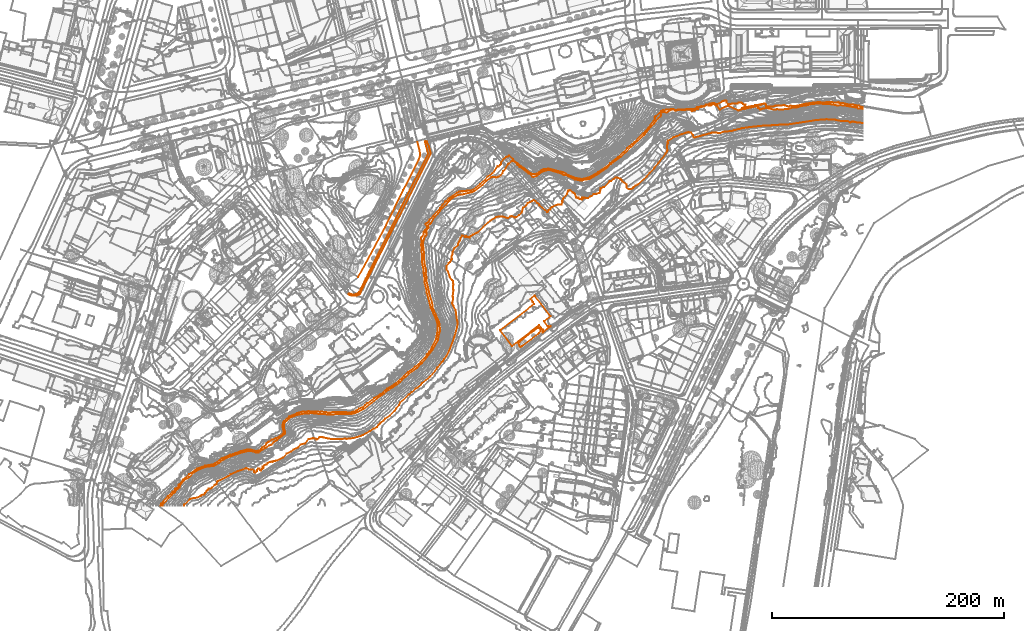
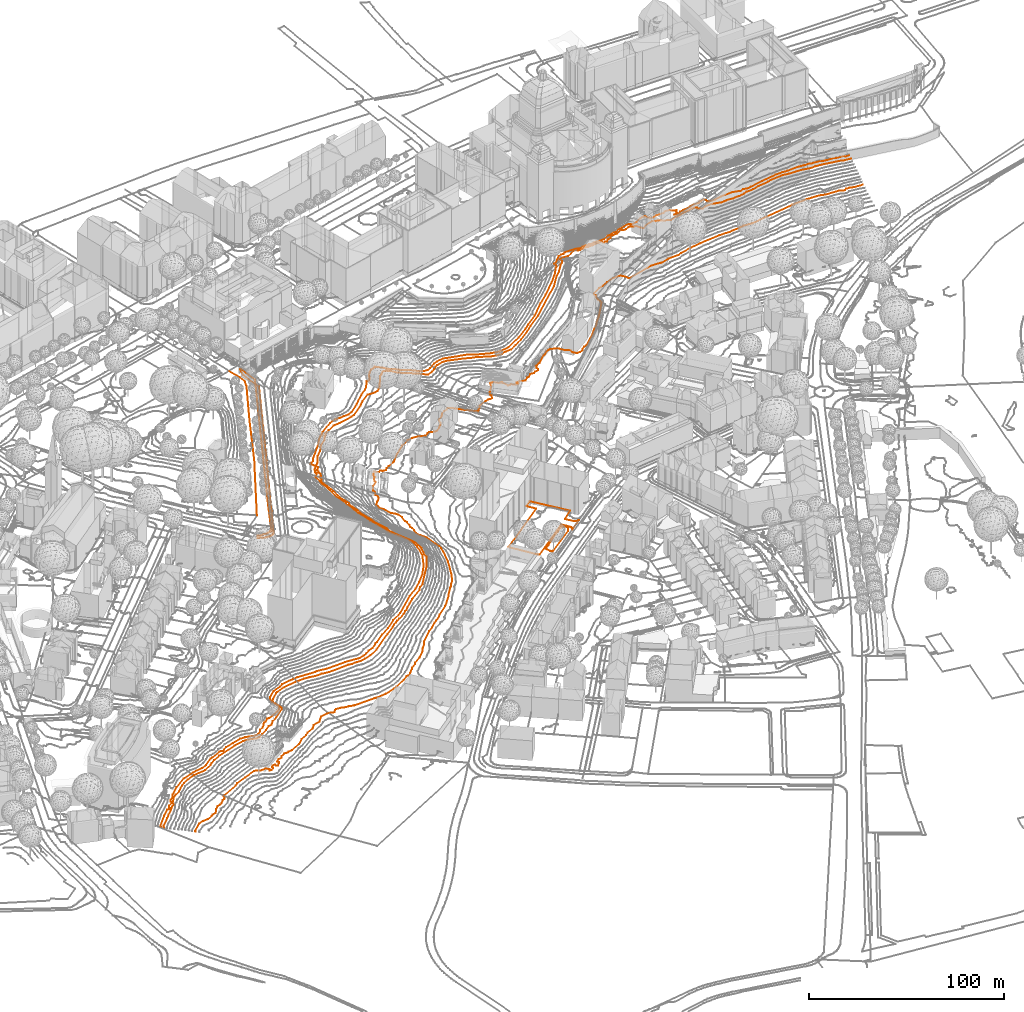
# Not in any storey, part 146 of 477: 4 geographic elements, 3 civil elements.
"""IFC4 model written with IfcOpenShell, lengths in metres."""

import ifcopenshell
import ifcopenshell.guid

model = None  # the IFC model being written
_history = None  # IfcOwnerHistory: only IFC2X3 demands one
_inside = {}  # id of a spatial element -> (the spatial element, [elements in it])
_under = {}  # id of a project, library or spatial element -> (it, [spatial elements below it])
_declared = {}  # id of a project -> (the project, [libraries it declares])
_typed = {}  # id of a type object -> (the type object, [elements of that type])
_made_of = {}  # id of a material, layer set ... -> (it, [elements and type objects made of it])


def new_model(schema):
    """Start an empty IFC model of exactly this schema.

    Asked for "IFC4X3", IfcOpenShell would pick the latest addendum, in which some entities
    have other attributes; the version numbers below select the first issue.
    IFC2X3 requires an IfcOwnerHistory on every rooted entity: one is made here for all.
    """
    global model, _history
    if schema == "IFC4X3":
        model = ifcopenshell.file(schema_version=(4, 3, 0, 0))
    else:
        model = ifcopenshell.file(schema=schema)
    _inside.clear()
    _under.clear()
    _declared.clear()
    _typed.clear()
    _made_of.clear()
    _history = None
    if model.schema == "IFC2X3":
        org = make("IfcOrganization", Name="unknown")
        user = make(
            "IfcPersonAndOrganization",
            ThePerson=make("IfcPerson", FamilyName="unknown"),
            TheOrganization=org,
        )
        app = make(
            "IfcApplication",
            ApplicationDeveloper=org,
            Version="unknown",
            ApplicationFullName="unknown",
            ApplicationIdentifier="unknown",
        )
        _history = make(
            "IfcOwnerHistory",
            OwningUser=user,
            OwningApplication=app,
            ChangeAction="ADDED",
            CreationDate=0,
        )
    return model


def make(cls, **values):
    """One entity of the class cls with the attributes given. An attribute that is None is left unset."""
    return model.create_entity(
        cls, **{name: value for name, value in values.items() if value is not None}
    )


def entity(cls, *values):
    """Any entity or typed value of the class cls, its attributes in the order of the schema. None: left unset."""
    e = model.create_entity(cls)
    for i, value in enumerate(values):
        if value is not None:
            e[i] = value
    return e


def rooted(cls, **values):
    """An entity with a GlobalId (a new one), such as an element, a storey or a relation."""
    return make(cls, GlobalId=ifcopenshell.guid.new(), OwnerHistory=_history, **values)


def si_unit(unit_type, name, prefix=None):
    """IfcSIUnit, for example si_unit("LENGTHUNIT", "METRE", prefix="MILLI")."""
    return make("IfcSIUnit", UnitType=unit_type, Prefix=prefix, Name=name)


def assignment(units):
    """IfcUnitAssignment: the units of a project."""
    return None if units is None else make("IfcUnitAssignment", Units=units)


def point(xyz):
    """IfcCartesianPoint."""
    return None if xyz is None else make("IfcCartesianPoint", Coordinates=xyz)


def direction(xyz):
    """IfcDirection."""
    return None if xyz is None else make("IfcDirection", DirectionRatios=xyz)


def frame(location, z_axis=None, x_axis=None):
    """IfcAxis2Placement3D, a coordinate frame: its origin and axes. An axis left out is left unset."""
    return make(
        "IfcAxis2Placement3D",
        Location=point(location),
        Axis=direction(z_axis),
        RefDirection=direction(x_axis),
    )


def origin_with_axes():
    """The frame at (0, 0, 0) with the z axis (0, 0, 1) and the x axis (1, 0, 0) written out."""
    return frame((0.0, 0.0, 0.0), z_axis=(0.0, 0.0, 1.0), x_axis=(1.0, 0.0, 0.0))


def place(relative_to, where):
    """IfcLocalPlacement: puts the frame where relative to a parent placement (None: the world)."""
    return make(
        "IfcLocalPlacement", PlacementRelTo=relative_to, RelativePlacement=where
    )


def context(
    kind, dimensions, precision=None, world=None, true_north=None, identifier=None
):
    """IfcGeometricRepresentationContext, for example the 3D "Model" context."""
    return make(
        "IfcGeometricRepresentationContext",
        ContextIdentifier=identifier,
        ContextType=kind,
        CoordinateSpaceDimension=dimensions,
        Precision=precision,
        WorldCoordinateSystem=world,
        TrueNorth=true_north,
    )


def subcontext(parent, identifier, kind, view, scale=None):
    """IfcGeometricRepresentationSubContext, for example "Body" below "Model"."""
    return make(
        "IfcGeometricRepresentationSubContext",
        ContextIdentifier=identifier,
        ContextType=kind,
        ParentContext=parent,
        TargetScale=scale,
        TargetView=view,
    )


def project(units=None, contexts=None):
    """IfcProject with its units and contexts."""
    return rooted(
        "IfcProject",
        Name="project",
        RepresentationContexts=contexts,
        UnitsInContext=assignment(units),
    )


def spatial(cls, under=None, at=None, **own):
    """A site, building, storey or space (cls), placed at a placement, below another one or the project."""
    s = rooted(cls, ObjectPlacement=at, **own)
    if under is not None:
        _under.setdefault(under.id(), (under, []))[1].append(s)
    return s


def shape(context_of_items, identifier, shape_type, items):
    """IfcShapeRepresentation: the items that make up one representation, for example the "Body"."""
    return make(
        "IfcShapeRepresentation",
        ContextOfItems=context_of_items,
        RepresentationIdentifier=identifier,
        RepresentationType=shape_type,
        Items=items,
    )


def made_of(thing, what):
    """Note that an element or type object is made of a material, layer set ...; save() writes the relation."""
    if what is not None:
        _made_of.setdefault(what.id(), (what, []))[1].append(thing)
    return thing


def element(
    cls,
    number,
    at=None,
    inside=None,
    cuts=None,
    type_object=None,
    material=None,
    context=None,
    identifier="Body",
    shape_type=None,
    held_by="IfcProductDefinitionShape",
    body=None,
    shapes=None,
    **own,
):
    """One element of the class cls, such as IfcWall. Its Tag is "e" and its number.

    at: its placement. inside: the storey or other place that contains it. cuts: it is an
    opening in that element (IfcRelVoidsElement). A single representation is given by context,
    identifier, shape_type and body (its items); several are given by shapes. held_by: the class
    of the entity that holds the representations. save() writes the other relations.
    """
    e = rooted(cls, Tag="e%d" % number, ObjectPlacement=at, **own)
    if body is not None:
        shapes = [shape(context, identifier, shape_type, body)]
    if shapes is not None:
        e.Representation = make(held_by, Representations=shapes)
    if inside is not None:
        _inside.setdefault(inside.id(), (inside, []))[1].append(e)
    if cuts is not None:
        rooted(
            "IfcRelVoidsElement", RelatingBuildingElement=cuts, RelatedOpeningElement=e
        )
    if type_object is not None:
        _typed.setdefault(type_object.id(), (type_object, []))[1].append(e)
    return made_of(e, material)


def aggregate(whole, parts):
    """IfcRelAggregates: a whole, such as a stair, and the parts it consists of."""
    return rooted("IfcRelAggregates", RelatingObject=whole, RelatedObjects=parts)


def save(model, path):
    """Write the relations noted so far, then the file.

    IfcRelAggregates (storeys below a building ...), IfcRelContainedInSpatialStructure (elements
    in a storey), IfcRelDefinesByType, IfcRelAssociatesMaterial and IfcRelDeclares: one each for
    every whole, place, type object, material and project.
    """
    for whole, parts in _under.values():
        aggregate(whole, parts)
    for where, things in _inside.values():
        rooted(
            "IfcRelContainedInSpatialStructure",
            RelatedElements=things,
            RelatingStructure=where,
        )
    for kind, things in _typed.values():
        rooted("IfcRelDefinesByType", RelatedObjects=things, RelatingType=kind)
    for what, things in _made_of.values():
        rooted("IfcRelAssociatesMaterial", RelatedObjects=things, RelatingMaterial=what)
    for by, libraries in _declared.values():
        rooted("IfcRelDeclares", RelatingContext=by, RelatedDefinitions=libraries)
    model.write(path)


model = new_model("IFC4")

# Units and contexts
model_context = context("Model", 3, precision=1e-05, world=origin_with_axes())
body_context = subcontext(model_context, "Body", "Model", "MODEL_VIEW")
ifc_project = project(units=[si_unit("AREAUNIT", "SQUARE_METRE"), si_unit("LENGTHUNIT", "METRE")], contexts=[model_context])

# Sites
site_1_placement = place(None, origin_with_axes())
site_1 = spatial("IfcSite", under=ifc_project, at=site_1_placement, Name="Topoexport Site")
site_2_placement = place(site_1_placement, origin_with_axes())
site_2 = spatial("IfcSite", under=site_1, at=site_2_placement, Name="TPX_ROADS")

# Civil element
civil_element_1_placement = place(site_2_placement, frame((252.3687320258, 195.3547372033, 538.186), z_axis=(0.0, 0.0, 1.0), x_axis=(1.0, 0.0, 0.0)))
element("IfcCivilElement", 1, at=civil_element_1_placement, inside=site_2, Name="Road 66", ObjectType="ROAD", context=body_context, shape_type="GeometricCurveSet", body=[
    entity("IfcGeometricCurveSet", [entity("IfcIndexedPolyCurve", entity("IfcCartesianPointList3D", [[51.1030000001, 117.3269964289, 1.375], [53.1590000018, 109.5449966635, 1.275], [53.745000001, 105.2859967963, 1.244], [52.2780000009, 101.1749969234, 1.155], [38.9140000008, 75.0359977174, 0.882], [23.2030000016, 42.8769986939, 0.571], [0.0, 0.0, 0.0]]))]),
])

# Site
site_3_placement = place(site_1_placement, origin_with_axes())
site_3 = spatial("IfcSite", under=site_1, at=site_3_placement, Name="TPX_ROADS_OUTLINES")

# Civil elements
civil_element_2_placement = place(site_3_placement, frame((244.2247320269, 180.7827160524, 535.7210730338), z_axis=(0.0, 0.0, 1.0), x_axis=(1.0, 0.0, 0.0)))
element("IfcCivilElement", 2, at=civil_element_2_placement, inside=site_3, Name="Roads Outline 68", ObjectType="ROAD", context=body_context, shape_type="GeometricCurveSet", body=[
    entity("IfcGeometricCurveSet", [entity("IfcIndexedPolyCurve", entity("IfcCartesianPointList3D", [[0.0, 0.0, 0.0], [0.4299999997, 0.7220000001, 1.0061032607], [1.0609999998, 0.3840000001, 0.9493057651], [1.7209999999, 0.1060000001, 1.0155911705], [2.4039999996, -0.108, 1.1948228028], [3.1039999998, -0.257, 1.230017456], [3.8149999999, -0.3399999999, 1.2166113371], [4.5299999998, -0.355, 1.2185154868], [5.2439999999, -0.3029999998, 1.1986940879], [5.9499999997, -0.1839999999, 1.1050534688], [6.6409999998, 0.0, 0.9576738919], [7.3129999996, 0.2490000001, 0.9249265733], [7.9569999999, 0.5600000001, 1.2168064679], [8.5699999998, 0.9300000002, 0.633516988], [8.7879999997, 1.0960000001, 0.312817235], [8.9849999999, 1.287, 0.1601853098], [9.156, 1.5010000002, 0.2142237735], [9.2959999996, 1.737, 0.2580758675], [10.4009999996, 4.048, 1.1655650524], [17.642, 19.182, 1.3030862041], [68.6979999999, 121.4140000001, 1.3862317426], [66.0919999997, 131.3120000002, 2.9035002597], [65.9649999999, 131.794, 2.7480724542], [66.449, 131.9210000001, 1.2071904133], [66.5759999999, 131.439, 1.2571021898], [67.605, 131.6910000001, -1.3891723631], [69.4449999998, 127.3530000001, -3.1595826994], [70.9919999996, 121.2250000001, -3.6091087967], [10.3689999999, 1.29, -0.8566308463], [10.102, 0.841, -0.8938719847], [9.7779999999, 0.432, -0.8188216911], [9.4009999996, 0.071, -0.7954715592], [8.9789999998, -0.237, -0.8281494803], [8.52, -0.4849999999, -0.7047566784], [7.8059999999, -0.7749999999, -0.5943769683], [7.071, -1.004, -0.6153123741], [6.318, -1.1699999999, -0.5635216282], [5.5549999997, -1.273, -0.39316825], [4.7849999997, -1.311, -0.2687760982], [4.0159999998, -1.284, -0.2092546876], [3.2509999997, -1.193, -0.1711743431], [2.4959999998, -1.037, -0.1060556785], [1.8449999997, -0.848, 0.0245304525], [1.21, -0.611, 0.0957175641], [0.5939999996, -0.328, 0.0530981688], [0.0, 0.0, 0.0]]))]),
])
civil_element_3_placement = place(site_3_placement, frame((374.9277320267, 149.7877160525, 503.0065275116), z_axis=(0.0, 0.0, 1.0), x_axis=(1.0, 0.0, 0.0)))
element("IfcCivilElement", 3, at=civil_element_3_placement, inside=site_3, Name="Roads Outline 108", ObjectType="ROAD", context=body_context, shape_type="GeometricCurveSet", body=[
    entity("IfcGeometricCurveSet", [entity("IfcIndexedPolyCurve", entity("IfcCartesianPointList3D", [[0.0, 0.0, 0.0], [29.5109999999, 22.6310000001, 0.0613416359], [28.324, 24.1709999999, 0.0937933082], [28.202, 24.3289999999, 0.0957038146], [27.4109999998, 25.355, 0.0761084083], [26.1499999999, 26.9909999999, 0.2251222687], [29.8119999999, 29.801, 0.3091823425], [30.0010000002, 29.5549999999, 0.2642736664], [43.4640000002, 12.051, 0.3206114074], [37.8650000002, 7.6809999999, -0.2680032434], [41.0690000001, 3.537, -0.2568301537], [41.3259999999, 3.317, -0.2567249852], [41.6170000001, 3.1439999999, -0.2509099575], [41.932, 3.0219999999, -0.2462269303], [42.264, 2.9549999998, -0.2411063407], [42.6510000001, 2.9469999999, -0.2454224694], [43.0320000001, 3.014, -0.247263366], [43.3930000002, 3.152, -0.2509293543], [43.7209999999, 3.3569999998, -0.2545834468], [36.4840000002, -2.2280000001, -0.4371853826], [36.7110000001, -1.986, -0.43935893], [36.8960000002, -1.7110000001, -0.439344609], [37.034, -1.409, -0.4402286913], [37.122, -1.0900000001, -0.4403077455], [37.1580000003, -0.76, -0.4287603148], [37.1370000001, -0.399, -0.4137720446], [37.0520000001, -0.048, -0.3924721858], [36.9070000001, 0.2830000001, -0.3611308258], [36.7060000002, 0.5829999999, -0.3323738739], [33.716, 4.463, -0.2780276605], [10.4369999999, -13.5870000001, -0.1724256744], [0.0, 0.0, 0.0]]))]),
])

# Site
site_4_placement = place(site_1_placement, origin_with_axes())
site_4 = spatial("IfcSite", under=site_1, at=site_4_placement, Name="TPX_CONTOUR_LINES")

# Geographic elements
geographic_element_1_placement = place(site_4_placement, frame((390.554567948, 139.1707160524, 503.0), z_axis=(0.0, 0.0, 1.0), x_axis=(1.0, 0.0, 0.0)))
element("IfcGeographicElement", 4, at=geographic_element_1_placement, inside=site_4, Name="Contour Line 503.0 m", PredefinedType="NOTDEFINED", context=body_context, shape_type="GeometricCurveSet", body=[
    entity("IfcGeometricCurveSet", [entity("IfcIndexedPolyCurve", entity("IfcCartesianPointList3D", [[3.3088236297, -3.0, 0.0], [2.1231640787, -3.8514931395, 0.0], [1.3503835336, -3.0, 0.0], [0.0, 0.0, 0.0], [1.1231640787, 0.5151680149, 0.0], [3.0706098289, 2.0, 0.0], [11.1231640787, 8.6590027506, 0.0], [13.1231640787, 9.8448673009, 0.0], [16.1231640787, 12.3198329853, 0.0], [17.1231640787, 12.8002671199, 0.0], [18.1231640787, 12.5733474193, 0.0], [18.8068063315, 12.0, 0.0], [19.3378647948, 11.0, 0.0], [19.3731302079, 10.0, 0.0], [18.1231640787, 8.0027926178, 0.0], [3.3088236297, -3.0, 0.0]]))]),
])
geographic_element_2_placement = place(site_4_placement, frame((102.4093465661, -1.3292839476, 512.0), z_axis=(0.0, 0.0, 1.0), x_axis=(1.0, 0.0, 0.0)))
element("IfcGeographicElement", 5, at=geographic_element_2_placement, inside=site_4, Name="Contour Line 512.0 m", PredefinedType="NOTDEFINED", context=body_context, shape_type="GeometricCurveSet", body=[
    entity("IfcGeometricCurveSet", [entity("IfcIndexedPolyCurve", entity("IfcCartesianPointList3D", [[585.7683854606, 329.7786036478, 0.0], [580.2683854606, 330.1535469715, 0.0], [578.2683854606, 330.7751536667, 0.0], [576.2683854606, 330.8776513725, 0.0], [575.2683854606, 330.3509793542, 0.0], [574.2683854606, 330.2734500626, 0.0], [572.2683854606, 331.2490537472, 0.0], [564.2683854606, 331.7246707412, 0.0], [562.2683854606, 332.4459585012, 0.0], [559.2683854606, 332.8620810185, 0.0], [557.2683854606, 332.6987299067, 0.0], [554.2683854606, 332.9898524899, 0.0], [545.2683854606, 332.2847755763, 0.0], [519.2683854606, 328.2524010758, 0.0], [514.2683854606, 328.5957719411, 0.0], [512.2683854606, 328.1210860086, 0.0], [507.2683854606, 327.7783252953, 0.0], [505.2683854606, 327.3870884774, 0.0], [499.2683854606, 327.4472424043, 0.0], [487.2683854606, 326.1703208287, 0.0], [481.2683854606, 325.1827507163, 0.0], [474.2683854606, 323.5484323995, 0.0], [472.2683854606, 322.7421440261, 0.0], [466.2683854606, 322.4151892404, 0.0], [461.2683854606, 320.8663497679, 0.0], [459.2683854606, 321.3033898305, 0.0], [455.2683854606, 321.3890618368, 0.0], [440.2683854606, 317.2912884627, 0.0], [439.6031743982, 317.5, 0.0], [438.9749735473, 319.5, 0.0], [437.2683854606, 321.475984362, 0.0], [435.2683854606, 321.7459653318, 0.0], [433.2683854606, 321.500432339, 0.0], [428.2683854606, 319.8854623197, 0.0], [425.2683854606, 318.3770562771, 0.0], [422.2683854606, 317.4403209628, 0.0], [417.4480305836, 314.5, 0.0], [416.9828760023, 313.5, 0.0], [417.5448334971, 312.5, 0.0], [416.837685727, 311.5, 0.0], [416.6635601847, 310.5, 0.0], [416.5894409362, 308.5, 0.0], [416.9499252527, 306.5, 0.0], [416.7496918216, 305.5, 0.0], [415.377033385, 303.5, 0.0], [409.3797131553, 295.5, 0.0], [405.6976285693, 291.5, 0.0], [405.2683854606, 290.4539075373, 0.0], [401.3382718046, 286.5, 0.0], [398.7943669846, 283.5, 0.0], [391.2683854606, 276.4927245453, 0.0], [389.2683854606, 275.7656423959, 0.0], [387.6349175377, 274.5, 0.0], [387.2683854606, 273.5422039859, 0.0], [385.2683854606, 272.8269717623, 0.0], [383.2683854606, 272.6691104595, 0.0], [381.6273750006, 274.5, 0.0], [381.8115839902, 276.5, 0.0], [378.2683854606, 279.0735470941, 0.0], [377.2683854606, 280.6401869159, 0.0], [376.2791381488, 281.5, 0.0], [373.2683854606, 282.6346712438, 0.0], [371.9789781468, 282.5, 0.0], [370.2683854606, 281.5732341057, 0.0], [368.2683854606, 279.7859160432, 0.0], [367.1479036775, 279.5, 0.0], [362.2683854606, 274.607963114, 0.0], [361.2683854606, 274.5500511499, 0.0], [360.2683854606, 273.5305681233, 0.0], [359.2683854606, 273.5205445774, 0.0], [359.3521213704, 272.5, 0.0], [358.82775599, 271.5, 0.0], [358.8963718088, 270.5, 0.0], [358.3685781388, 269.5, 0.0], [356.2683854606, 268.9825870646, 0.0], [355.2683854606, 268.2690192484, 0.0], [353.2683854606, 268.5060948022, 0.0], [351.2683854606, 266.5476380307, 0.0], [350.241329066, 266.5, 0.0], [348.2683854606, 264.8184055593, 0.0], [346.2683854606, 264.9944978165, 0.0], [345.2683854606, 265.5904682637, 0.0], [343.4287975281, 265.5, 0.0], [344.0655129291, 264.5, 0.0], [343.2683854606, 263.6823204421, 0.0], [341.2683854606, 264.3345679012, 0.0], [340.2683854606, 265.4549477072, 0.0], [339.2683854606, 265.1862429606, 0.0], [338.2683854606, 265.3691275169, 0.0], [337.2697241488, 268.5, 0.0], [336.2927986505, 269.5, 0.0], [335.2683854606, 269.6580524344, 0.0], [333.2683854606, 271.5193789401, 0.0], [332.2683854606, 271.7529069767, 0.0], [331.2683854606, 271.5593065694, 0.0], [330.1969568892, 268.5, 0.0], [326.9680564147, 264.5, 0.0], [326.2216408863, 262.5, 0.0], [326.3596533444, 261.5, 0.0], [325.4039137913, 259.5, 0.0], [324.2683854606, 259.3630412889, 0.0], [323.2683854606, 259.6169024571, 0.0], [321.2683854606, 259.1242132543, 0.0], [317.2683854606, 257.3190155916, 0.0], [316.2574153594, 256.5, 0.0], [315.8866120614, 255.5, 0.0], [314.5528885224, 254.5, 0.0], [313.9457977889, 253.5, 0.0], [313.2683854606, 252.9958664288, 0.0], [306.8166078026, 258.5, 0.0], [306.3137711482, 259.5, 0.0], [304.9001861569, 260.5, 0.0], [303.2683854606, 262.305980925, 0.0], [301.2683854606, 263.4401435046, 0.0], [300.2683854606, 262.4951333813, 0.0], [298.2683854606, 261.7629139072, 0.0], [296.3208540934, 260.5, 0.0], [295.0945577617, 258.5, 0.0], [292.2683854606, 256.611111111, 0.0], [291.4656643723, 253.5, 0.0], [290.8825333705, 252.5, 0.0], [288.969554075, 250.5, 0.0], [286.2683854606, 248.4625606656, 0.0], [285.2683854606, 248.3257650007, 0.0], [282.2683854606, 249.3055771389, 0.0], [281.2683854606, 248.9868563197, 0.0], [279.2683854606, 247.5817391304, 0.0], [274.2683854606, 249.1682096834, 0.0], [272.2683854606, 249.2162324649, 0.0], [269.2683854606, 248.6056447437, 0.0], [264.2683854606, 245.8079100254, 0.0], [258.1225467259, 240.5, 0.0], [253.2683854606, 235.3729911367, 0.0], [249.0783526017, 233.5, 0.0], [247.2683854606, 232.3847227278, 0.0], [246.2683854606, 231.1191741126, 0.0], [244.2683854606, 231.3849911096, 0.0], [243.2683854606, 232.2481243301, 0.0], [242.2683854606, 231.5189477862, 0.0], [240.2683854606, 232.7646075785, 0.0], [239.6561614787, 232.5, 0.0], [238.5239422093, 230.5, 0.0], [237.8459033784, 228.5, 0.0], [237.084248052, 227.5, 0.0], [236.349391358, 225.5, 0.0], [236.2683854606, 224.4243017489, 0.0], [233.2683854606, 221.9328180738, 0.0], [231.4364061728, 218.5, 0.0], [231.4987360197, 216.5, 0.0], [230.608274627, 214.5, 0.0], [230.9234732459, 212.5, 0.0], [230.4379925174, 211.5, 0.0], [229.2683854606, 209.63765324, 0.0], [228.2683854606, 208.9444920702, 0.0], [226.2529078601, 206.5, 0.0], [226.6074235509, 204.5, 0.0], [226.3103426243, 203.5, 0.0], [227.7159366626, 201.5, 0.0], [229.2926459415, 196.5, 0.0], [231.2683854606, 194.4757561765, 0.0], [231.7993900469, 193.5, 0.0], [232.2471474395, 190.5, 0.0], [231.9024459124, 186.5, 0.0], [232.3096942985, 185.5, 0.0], [232.0487439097, 182.5, 0.0], [231.5644748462, 180.5, 0.0], [231.8817407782, 179.5, 0.0], [231.9491598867, 177.5, 0.0], [231.2608858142, 174.5, 0.0], [232.2683854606, 171.8723745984, 0.0], [234.2205850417, 168.5, 0.0], [235.0828642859, 161.5, 0.0], [235.742153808, 158.5, 0.0], [235.7898565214, 156.5, 0.0], [235.3733341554, 153.5, 0.0], [232.971537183, 144.5, 0.0], [228.7220655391, 133.5, 0.0], [226.1709889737, 128.5, 0.0], [224.2683854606, 126.1865129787, 0.0], [223.2683854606, 124.4770415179, 0.0], [222.1919516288, 123.5, 0.0], [218.2683854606, 118.6088011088, 0.0], [217.7184911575, 117.5, 0.0], [211.6771431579, 110.5, 0.0], [205.4456006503, 105.5, 0.0], [204.2683854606, 104.178724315, 0.0], [201.2683854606, 101.5960213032, 0.0], [199.5530552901, 100.5, 0.0], [196.3219786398, 97.5, 0.0], [193.5473723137, 95.5, 0.0], [186.4271036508, 88.5, 0.0], [185.2683854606, 86.3599231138, 0.0], [182.7496736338, 83.5, 0.0], [181.5195031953, 81.5, 0.0], [177.5002587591, 77.5, 0.0], [173.2683854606, 74.6521202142, 0.0], [172.2683854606, 73.318142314, 0.0], [169.6257602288, 71.5, 0.0], [169.0603463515, 70.5, 0.0], [167.762767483, 69.5, 0.0], [166.2683854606, 67.6765080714, 0.0], [164.2683854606, 66.4175576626, 0.0], [163.2683854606, 66.1803956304, 0.0], [160.2683854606, 64.1374315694, 0.0], [154.2683854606, 60.7863183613, 0.0], [152.2683854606, 59.8626054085, 0.0], [146.2683854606, 58.0249616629, 0.0], [140.2683854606, 57.2850749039, 0.0], [139.2683854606, 57.4423792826, 0.0], [127.2683854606, 56.9770744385, 0.0], [124.2683854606, 57.7803875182, 0.0], [122.2683854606, 57.8610259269, 0.0], [120.2683854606, 58.6591922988, 0.0], [117.2683854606, 58.9008551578, 0.0], [116.2683854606, 58.3732704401, 0.0], [115.2683854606, 57.0537752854, 0.0], [114.2683854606, 56.7499629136, 0.0], [113.2683854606, 57.5089216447, 0.0], [111.2683854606, 57.8514180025, 0.0], [107.2683854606, 57.0180940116, 0.0], [104.2683854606, 53.4350115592, 0.0], [100.2683854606, 52.3423930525, 0.0], [98.2683854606, 49.8486480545, 0.0], [94.2683854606, 48.0164917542, 0.0], [92.2683854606, 46.3942809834, 0.0], [88.5646251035, 44.5, 0.0], [85.2683854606, 41.3903832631, 0.0], [79.2683854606, 38.3986945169, 0.0], [77.2683854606, 38.0828411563, 0.0], [76.2683854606, 37.462181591, 0.0], [75.2683854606, 37.7760290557, 0.0], [74.2683854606, 37.5202944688, 0.0], [72.1498669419, 36.5, 0.0], [71.2683854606, 35.3400000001, 0.0], [69.2683854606, 34.8106672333, 0.0], [67.5628936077, 33.5, 0.0], [68.4044598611, 32.5, 0.0], [67.8599222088, 31.5, 0.0], [67.2683854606, 31.3044182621, 0.0], [66.2683854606, 30.1614420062, 0.0], [65.4654114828, 30.5, 0.0], [65.2683854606, 31.5722433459, 0.0], [63.9841168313, 31.5, 0.0], [63.1192385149, 30.5, 0.0], [62.9803360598, 29.5, 0.0], [61.2683854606, 28.0828382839, 0.0], [60.2356270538, 28.5, 0.0], [60.8082665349, 29.5, 0.0], [59.2683854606, 30.8883874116, 0.0], [56.2683854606, 30.8091915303, 0.0], [54.2683854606, 31.8810578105, 0.0], [53.2683854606, 31.9567638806, 0.0], [46.2683854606, 29.374963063, 0.0], [40.2683854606, 26.7839423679, 0.0], [38.2683854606, 25.3318349, 0.0], [29.2683854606, 20.9696796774, 0.0], [28.6287626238, 20.5, 0.0], [27.9515104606, 18.5, 0.0], [27.2683854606, 17.7079710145, 0.0], [26.2683854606, 17.4385847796, 0.0], [24.2683854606, 15.378385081, 0.0], [23.0312562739, 14.5, 0.0], [21.2683854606, 14.3197560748, 0.0], [20.2683854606, 13.0102074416, 0.0], [19.2683854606, 12.2589382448, 0.0], [18.2683854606, 10.535929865, 0.0], [17.3052002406, 9.5, 0.0], [15.2683854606, 8.8491715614, 0.0], [14.2683854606, 8.0010771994, 0.0], [11.2683854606, 6.5132683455, 0.0], [8.2683854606, 6.4156834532, 0.0], [5.2683854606, 5.4907978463, 0.0], [0.0, 0.5, 0.0], [0.0, 0.0, 0.0]]))]),
])
geographic_element_3_placement = place(site_4_placement, frame((83.791356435, -1.3292839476, 521.0), z_axis=(0.0, 0.0, 1.0), x_axis=(1.0, 0.0, 0.0)))
element("IfcGeographicElement", 6, at=geographic_element_3_placement, inside=site_4, Name="Contour Line 521.0 m", PredefinedType="NOTDEFINED", context=body_context, shape_type="GeometricCurveSet", body=[
    entity("IfcGeometricCurveSet", [entity("IfcIndexedPolyCurve", entity("IfcCartesianPointList3D", [[604.3863755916, 341.8987044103, 0.0], [599.8863755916, 342.4084302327, 0.0], [598.8863755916, 342.87574834, 0.0], [587.8863755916, 344.799931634, 0.0], [584.8863755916, 345.0718676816, 0.0], [581.8863755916, 344.8837182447, 0.0], [576.8863755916, 345.8593252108, 0.0], [569.8863755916, 346.1228003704, 0.0], [565.8863755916, 346.6195481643, 0.0], [558.8863755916, 345.8922492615, 0.0], [556.8863755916, 345.1698301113, 0.0], [550.8863755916, 344.3693912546, 0.0], [546.8863755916, 343.2551875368, 0.0], [542.8863755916, 342.9363314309, 0.0], [540.8863755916, 342.1447331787, 0.0], [537.8863755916, 341.5804899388, 0.0], [536.8863755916, 341.7028112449, 0.0], [533.8863755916, 341.3257257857, 0.0], [529.8863755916, 341.6553902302, 0.0], [528.8863755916, 341.2635991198, 0.0], [526.8863755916, 341.2891517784, 0.0], [521.8863755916, 342.5064244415, 0.0], [517.8863755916, 342.3385979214, 0.0], [515.8863755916, 341.3889416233, 0.0], [515.2852624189, 341.5, 0.0], [514.8863755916, 341.9908675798, 0.0], [513.7953899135, 342.5, 0.0], [513.9711950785, 343.5, 0.0], [512.8863755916, 344.0858758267, 0.0], [510.8863755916, 343.9649802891, 0.0], [508.8863755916, 343.3372289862, 0.0], [505.8863755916, 342.9930379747, 0.0], [502.8863755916, 341.9925241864, 0.0], [500.8863755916, 341.8326068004, 0.0], [497.8863755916, 341.0344222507, 0.0], [496.8863755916, 340.3891862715, 0.0], [487.8863755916, 344.5327061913, 0.0], [482.8863755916, 342.7626782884, 0.0], [480.8863755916, 341.2422150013, 0.0], [479.8863755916, 342.3879524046, 0.0], [478.7408025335, 344.5, 0.0], [477.8863755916, 344.9392627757, 0.0], [476.8863755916, 345.0330556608, 0.0], [475.8863755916, 346.0452551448, 0.0], [474.8863755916, 345.9737963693, 0.0], [472.8863755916, 344.9998677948, 0.0], [470.8863755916, 344.7797058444, 0.0], [469.7864639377, 345.5, 0.0], [466.8863755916, 343.8303726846, 0.0], [462.5660133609, 343.5, 0.0], [461.8863755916, 341.9782920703, 0.0], [459.8863755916, 341.6795268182, 0.0], [458.8863755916, 340.2770314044, 0.0], [457.8863755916, 340.6517214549, 0.0], [456.8863755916, 340.2544540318, 0.0], [456.5286060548, 340.5, 0.0], [456.3406690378, 341.5, 0.0], [455.8863755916, 341.5685196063, 0.0], [451.8863755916, 341.3246370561, 0.0], [450.8863755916, 340.947225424, 0.0], [448.8863755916, 341.1097930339, 0.0], [447.8863755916, 340.8168091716, 0.0], [446.8863755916, 341.2675598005, 0.0], [442.8863755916, 340.5925324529, 0.0], [441.8863755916, 340.6221711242, 0.0], [440.8863755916, 341.5208488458, 0.0], [439.3792548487, 341.5, 0.0], [434.8863755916, 338.8202105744, 0.0], [431.8863755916, 339.2382520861, 0.0], [429.6788317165, 338.5, 0.0], [429.8595155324, 336.5, 0.0], [429.4439994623, 335.5, 0.0], [427.8863755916, 334.1942290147, 0.0], [423.8863755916, 329.1825994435, 0.0], [420.8863755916, 326.3751370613, 0.0], [415.3415556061, 319.5, 0.0], [394.9737800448, 300.5, 0.0], [386.9280117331, 294.5, 0.0], [382.8863755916, 290.8732756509, 0.0], [376.7291147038, 286.5, 0.0], [371.8863755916, 283.4854147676, 0.0], [367.8863755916, 281.3798472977, 0.0], [364.8863755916, 280.9458428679, 0.0], [363.8863755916, 281.089720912, 0.0], [361.8863755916, 280.0909668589, 0.0], [358.8863755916, 280.3238388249, 0.0], [355.8863755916, 281.0995667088, 0.0], [347.8863755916, 284.6564074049, 0.0], [345.8863755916, 285.0040423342, 0.0], [342.8863755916, 286.4240379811, 0.0], [333.8863755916, 289.101015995, 0.0], [331.8863755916, 289.1582836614, 0.0], [327.8863755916, 288.0219921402, 0.0], [326.8319679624, 287.5, 0.0], [324.8863755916, 285.6300912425, 0.0], [322.8863755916, 284.3430609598, 0.0], [319.8863755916, 283.2183973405, 0.0], [318.8863755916, 283.6954887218, 0.0], [315.8863755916, 286.3299076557, 0.0], [307.8863755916, 291.8349466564, 0.0], [306.1546144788, 293.5, 0.0], [305.7045290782, 294.5, 0.0], [302.8863755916, 296.7450235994, 0.0], [301.8863755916, 297.1964152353, 0.0], [300.8863755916, 296.9886922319, 0.0], [298.8863755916, 294.9352766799, 0.0], [297.8863755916, 294.2972579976, 0.0], [295.7970850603, 290.5, 0.0], [293.8863755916, 288.0982478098, 0.0], [293.1220708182, 286.5, 0.0], [291.3957332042, 284.5, 0.0], [290.0524679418, 283.5, 0.0], [287.8863755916, 282.8791958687, 0.0], [283.8863755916, 283.0540983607, 0.0], [278.8863755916, 279.532561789, 0.0], [275.8863755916, 276.3722633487, 0.0], [268.8863755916, 270.9127260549, 0.0], [266.8863755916, 270.1161239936, 0.0], [258.8863755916, 268.2223692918, 0.0], [254.8863755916, 267.7989292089, 0.0], [250.695432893, 265.5, 0.0], [247.8863755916, 263.5297297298, 0.0], [247.2285846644, 262.5, 0.0], [246.1083222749, 261.5, 0.0], [244.8193839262, 259.5, 0.0], [240.4705236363, 255.5, 0.0], [237.4982193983, 251.5, 0.0], [234.4798427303, 248.5, 0.0], [231.610096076, 243.5, 0.0], [230.8863755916, 242.7098926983, 0.0], [228.8303915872, 241.5, 0.0], [229.5957967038, 239.5, 0.0], [227.8420036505, 237.5, 0.0], [227.8863755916, 236.2383647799, 0.0], [226.8863755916, 235.7663043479, 0.0], [227.6013899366, 234.5, 0.0], [227.5567533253, 233.5, 0.0], [226.8863755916, 232.0772357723, 0.0], [225.8863755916, 231.4722921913, 0.0], [225.6793390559, 229.5, 0.0], [224.9956873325, 228.5, 0.0], [224.7261205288, 227.5, 0.0], [224.5506880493, 225.5, 0.0], [225.1147865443, 222.5, 0.0], [225.5708747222, 217.5, 0.0], [225.8988629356, 209.5, 0.0], [227.2228811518, 203.5, 0.0], [227.1083720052, 200.5, 0.0], [227.7493877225, 196.5, 0.0], [227.8487824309, 193.5, 0.0], [229.9312222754, 184.5, 0.0], [229.9138551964, 183.5, 0.0], [232.7066443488, 174.5, 0.0], [232.7599097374, 171.5, 0.0], [238.4113636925, 158.5, 0.0], [238.9011349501, 156.5, 0.0], [239.4631737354, 151.5, 0.0], [239.4066303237, 150.5, 0.0], [238.1785400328, 146.5, 0.0], [237.6311051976, 142.5, 0.0], [232.9923784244, 134.5, 0.0], [223.7236762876, 122.5, 0.0], [221.1379507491, 120.5, 0.0], [219.5999798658, 118.5, 0.0], [212.4273943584, 113.5, 0.0], [209.3122473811, 110.5, 0.0], [206.7777386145, 108.5, 0.0], [205.067651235, 106.5, 0.0], [203.8863755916, 105.8727701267, 0.0], [201.8863755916, 103.9784876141, 0.0], [197.8863755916, 101.4125049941, 0.0], [195.8863755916, 100.4982316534, 0.0], [194.8863755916, 99.5092929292, 0.0], [192.8863755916, 98.3355545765, 0.0], [191.0063052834, 96.5, 0.0], [185.8863755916, 92.8303038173, 0.0], [173.8863755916, 83.3126562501, 0.0], [168.8863755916, 80.687684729, 0.0], [164.8863755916, 79.1813009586, 0.0], [161.8863755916, 78.5833579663, 0.0], [158.8863755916, 78.9213296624, 0.0], [156.8863755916, 78.602060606, 0.0], [154.8863755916, 78.8458904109, 0.0], [142.8863755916, 78.2366922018, 0.0], [138.8863755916, 78.7122124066, 0.0], [134.8863755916, 78.6884531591, 0.0], [131.8863755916, 79.2414070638, 0.0], [128.8863755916, 79.4088554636, 0.0], [123.8863755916, 79.2872216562, 0.0], [115.8863755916, 78.0295998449, 0.0], [110.8863755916, 75.9730396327, 0.0], [110.0408298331, 75.5, 0.0], [105.8863755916, 71.7706288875, 0.0], [105.0247756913, 70.5, 0.0], [104.7229251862, 67.5, 0.0], [105.7636862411, 63.5, 0.0], [105.6760198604, 62.5, 0.0], [105.1440402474, 61.5, 0.0], [99.0315857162, 56.5, 0.0], [95.8863755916, 54.6133212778, 0.0], [93.8863755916, 52.2652329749, 0.0], [91.8863755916, 51.7428511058, 0.0], [88.9253225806, 49.5, 0.0], [85.4118705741, 47.5, 0.0], [82.8863755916, 45.5958343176, 0.0], [80.8863755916, 45.4526112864, 0.0], [75.8863755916, 46.8805472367, 0.0], [73.8863755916, 46.8262884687, 0.0], [67.8863755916, 45.4140938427, 0.0], [56.7106525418, 41.5, 0.0], [52.4794921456, 39.5, 0.0], [49.8863755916, 37.755170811, 0.0], [48.5856585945, 36.5, 0.0], [43.8863755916, 34.0239391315, 0.0], [36.8863755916, 33.0761060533, 0.0], [31.8863755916, 31.1196475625, 0.0], [28.8863755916, 29.5551261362, 0.0], [26.8863755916, 28.1370601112, 0.0], [22.8863755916, 24.2091403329, 0.0], [19.8863755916, 22.5053724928, 0.0], [17.8863755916, 20.9011958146, 0.0], [15.3224500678, 17.5, 0.0], [14.617059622, 15.5, 0.0], [12.8863755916, 14.1623841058, 0.0], [10.677470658, 11.5, 0.0], [7.8863755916, 9.007092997, 0.0], [5.725555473, 6.5, 0.0], [0.8863755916, 1.7936953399, 0.0], [0.0, 0.5, 0.0], [0.0, 0.0, 0.0]]))]),
])
geographic_element_4_placement = place(site_4_placement, frame((81.9797185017, -1.3292839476, 522.0), z_axis=(0.0, 0.0, 1.0), x_axis=(1.0, 0.0, 0.0)))
element("IfcGeographicElement", 7, at=geographic_element_4_placement, inside=site_4, Name="Contour Line 522.0 m", PredefinedType="NOTDEFINED", context=body_context, shape_type="GeometricCurveSet", body=[
    entity("IfcGeometricCurveSet", [entity("IfcIndexedPolyCurve", entity("IfcCartesianPointList3D", [[606.198013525, 343.637235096, 0.0], [603.698013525, 343.7864330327, 0.0], [602.698013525, 344.6129616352, 0.0], [600.698013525, 344.6392572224, 0.0], [599.698013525, 345.0120298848, 0.0], [598.698013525, 344.8008034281, 0.0], [597.6226225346, 345.5, 0.0], [593.698013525, 345.6589945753, 0.0], [591.698013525, 346.0818581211, 0.0], [590.698013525, 346.6211133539, 0.0], [585.698013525, 347.007639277, 0.0], [584.698013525, 347.5986667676, 0.0], [581.698013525, 347.3086317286, 0.0], [577.698013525, 348.0105438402, 0.0], [571.698013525, 347.398686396, 0.0], [568.698013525, 347.7309078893, 0.0], [564.698013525, 347.5518119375, 0.0], [555.698013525, 346.2610782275, 0.0], [548.3698783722, 344.5, 0.0], [545.698013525, 344.1939337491, 0.0], [543.698013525, 344.6515345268, 0.0], [541.698013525, 344.0219584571, 0.0], [537.698013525, 345.0840807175, 0.0], [530.698013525, 344.6569793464, 0.0], [526.698013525, 343.7771395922, 0.0], [522.698013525, 343.7687285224, 0.0], [522.3005536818, 344.5, 0.0], [522.2770525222, 345.5, 0.0], [521.698013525, 346.4596076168, 0.0], [520.698013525, 346.6939958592, 0.0], [519.698013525, 346.0109590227, 0.0], [518.698013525, 346.0076816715, 0.0], [517.698013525, 345.2650848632, 0.0], [516.698013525, 345.5421743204, 0.0], [512.698013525, 345.1022361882, 0.0], [511.698013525, 344.4403077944, 0.0], [507.698013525, 344.0227333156, 0.0], [507.3323821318, 343.5, 0.0], [505.698013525, 343.3049045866, 0.0], [504.698013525, 342.4042342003, 0.0], [501.698013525, 342.4753396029, 0.0], [501.698013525, 342.7032146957, 0.0], [503.8168659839, 343.5, 0.0], [503.7548997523, 344.5, 0.0], [504.7404163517, 345.5, 0.0], [502.698013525, 346.0073746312, 0.0], [501.698013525, 347.1635160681, 0.0], [500.6260783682, 347.5, 0.0], [498.698013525, 347.5236572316, 0.0], [497.698013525, 346.6240109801, 0.0], [493.698013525, 346.6427139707, 0.0], [490.698013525, 345.9413986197, 0.0], [489.698013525, 346.0256883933, 0.0], [488.5070910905, 347.5, 0.0], [488.2100489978, 348.5, 0.0], [487.698013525, 348.9297867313, 0.0], [486.698013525, 348.9575870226, 0.0], [484.7770508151, 348.5, 0.0], [481.698013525, 346.4669657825, 0.0], [478.698013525, 346.0124630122, 0.0], [477.698013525, 346.8881819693, 0.0], [476.698013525, 346.9557478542, 0.0], [473.8383135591, 346.5, 0.0], [472.698013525, 345.8622551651, 0.0], [470.511347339, 345.5, 0.0], [467.698013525, 344.0270382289, 0.0], [466.698013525, 344.3786721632, 0.0], [463.698013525, 343.3314338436, 0.0], [462.698013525, 343.4157155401, 0.0], [459.698013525, 341.6271342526, 0.0], [453.698013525, 341.5638527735, 0.0], [451.698013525, 341.1794283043, 0.0], [450.698013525, 341.5208096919, 0.0], [449.698013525, 341.0791462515, 0.0], [448.698013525, 341.5531863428, 0.0], [446.698013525, 341.4882209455, 0.0], [444.698013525, 340.7391100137, 0.0], [443.698013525, 340.870022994, 0.0], [442.698013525, 341.6032782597, 0.0], [436.0058431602, 341.5, 0.0], [434.9003831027, 340.5, 0.0], [433.698013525, 340.719621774, 0.0], [431.698013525, 339.9703262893, 0.0], [427.698013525, 335.7902147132, 0.0], [426.6029583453, 335.5, 0.0], [426.266314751, 334.5, 0.0], [426.6147885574, 333.5, 0.0], [426.1695957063, 332.5, 0.0], [425.1633427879, 331.5, 0.0], [422.698013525, 328.0214191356, 0.0], [416.698013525, 321.2668423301, 0.0], [408.8192450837, 313.5, 0.0], [402.698013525, 308.2600979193, 0.0], [394.698013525, 300.2717541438, 0.0], [387.698013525, 295.0854133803, 0.0], [384.698013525, 292.289659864, 0.0], [377.698013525, 287.406673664, 0.0], [369.0616907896, 282.5, 0.0], [363.698013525, 281.5231730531, 0.0], [362.698013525, 281.4595959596, 0.0], [357.698013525, 282.4601414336, 0.0], [351.698013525, 284.8294436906, 0.0], [347.698013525, 287.1184689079, 0.0], [334.698013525, 290.4321167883, 0.0], [330.698013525, 289.8174995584, 0.0], [328.698013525, 288.9623844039, 0.0], [324.698013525, 286.2246471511, 0.0], [322.698013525, 285.587884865, 0.0], [320.698013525, 285.6777609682, 0.0], [319.698013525, 286.0709351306, 0.0], [316.698013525, 288.2350185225, 0.0], [314.698013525, 290.070368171, 0.0], [310.6148497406, 292.5, 0.0], [307.698013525, 295.4066855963, 0.0], [305.6551105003, 296.5, 0.0], [304.122462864, 298.5, 0.0], [300.698013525, 301.5506864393, 0.0], [299.698013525, 300.8678783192, 0.0], [297.9779048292, 300.5, 0.0], [295.9158755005, 298.5, 0.0], [293.7144463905, 295.5, 0.0], [293.6728166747, 294.5, 0.0], [292.9100645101, 293.5, 0.0], [291.698013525, 292.3231009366, 0.0], [290.698013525, 292.4304495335, 0.0], [287.698013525, 287.972075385, 0.0], [286.3161795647, 286.5, 0.0], [282.3474336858, 283.5, 0.0], [275.698013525, 277.0174917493, 0.0], [270.2290850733, 272.5, 0.0], [267.698013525, 271.4686950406, 0.0], [264.698013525, 271.2940344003, 0.0], [262.698013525, 270.8507621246, 0.0], [261.698013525, 271.1296965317, 0.0], [260.698013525, 270.6410788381, 0.0], [259.698013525, 271.0029776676, 0.0], [257.692729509, 270.5, 0.0], [255.698013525, 269.5597563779, 0.0], [248.3571724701, 264.5, 0.0], [246.698013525, 262.3792604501, 0.0], [245.698013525, 261.9029959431, 0.0], [243.4391812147, 259.5, 0.0], [241.4058713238, 256.5, 0.0], [232.3590632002, 246.5, 0.0], [231.2830146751, 244.5, 0.0], [229.6651617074, 243.5, 0.0], [228.7529239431, 242.5, 0.0], [229.9216336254, 240.5, 0.0], [229.8715357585, 239.5, 0.0], [228.1465663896, 237.5, 0.0], [227.8833158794, 236.5, 0.0], [227.0958774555, 235.5, 0.0], [226.9927794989, 233.5, 0.0], [225.1464420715, 231.5, 0.0], [224.9559082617, 230.5, 0.0], [225.2548225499, 227.5, 0.0], [224.7818051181, 224.5, 0.0], [225.4212656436, 222.5, 0.0], [225.569868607, 210.5, 0.0], [226.9680770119, 203.5, 0.0], [226.9398976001, 201.5, 0.0], [227.7107410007, 196.5, 0.0], [227.8542014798, 192.5, 0.0], [229.5990505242, 185.5, 0.0], [229.7366440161, 183.5, 0.0], [232.2738138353, 174.5, 0.0], [233.0969921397, 170.5, 0.0], [237.4591561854, 161.5, 0.0], [238.8425162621, 157.5, 0.0], [239.1606524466, 151.5, 0.0], [238.7951444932, 148.5, 0.0], [237.629348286, 143.5, 0.0], [234.2980135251, 136.5, 0.0], [231.8230247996, 132.5, 0.0], [230.1900135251, 130.5, 0.0], [229.7665580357, 129.5, 0.0], [224.216217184, 123.5, 0.0], [219.775708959, 119.5, 0.0], [213.698013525, 115.0758996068, 0.0], [201.9807795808, 104.5, 0.0], [195.698013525, 100.6438243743, 0.0], [189.698013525, 95.806359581, 0.0], [184.4592214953, 92.5, 0.0], [178.698013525, 88.0729818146, 0.0], [177.698013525, 87.6624656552, 0.0], [176.635268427, 86.5, 0.0], [174.0240639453, 84.5, 0.0], [171.2580021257, 83.5, 0.0], [168.698013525, 81.6449412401, 0.0], [166.698013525, 80.7133404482, 0.0], [163.698013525, 80.0336498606, 0.0], [155.698013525, 80.5995100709, 0.0], [144.698013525, 80.1099754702, 0.0], [138.698013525, 80.8594159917, 0.0], [137.698013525, 80.6373283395, 0.0], [127.698013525, 81.1084610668, 0.0], [124.698013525, 80.6531277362, 0.0], [122.698013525, 80.6967255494, 0.0], [117.698013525, 79.6552135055, 0.0], [115.698013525, 78.2210708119, 0.0], [110.7834196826, 76.5, 0.0], [106.698013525, 72.8172256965, 0.0], [105.8100705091, 71.5, 0.0], [105.2777776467, 68.5, 0.0], [106.2918397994, 63.5, 0.0], [106.1582599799, 62.5, 0.0], [105.4893904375, 61.5, 0.0], [103.698013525, 60.0084347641, 0.0], [99.698013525, 57.9110393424, 0.0], [96.698013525, 56.764684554, 0.0], [95.698013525, 56.6631693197, 0.0], [93.698013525, 54.8455227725, 0.0], [92.6587220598, 54.5, 0.0], [91.5380664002, 53.5, 0.0], [91.1807565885, 52.5, 0.0], [89.698013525, 51.1276243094, 0.0], [87.698013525, 49.9546744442, 0.0], [86.6272846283, 48.5, 0.0], [84.698013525, 47.0222115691, 0.0], [83.698013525, 46.6396735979, 0.0], [82.698013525, 46.6322201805, 0.0], [77.698013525, 48.017405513, 0.0], [74.698013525, 48.0699635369, 0.0], [69.698013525, 46.8075674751, 0.0], [64.698013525, 45.1403031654, 0.0], [62.698013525, 44.0537533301, 0.0], [61.698013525, 43.117908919, 0.0], [60.698013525, 43.6516466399, 0.0], [59.9901454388, 43.5, 0.0], [53.698013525, 40.7399053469, 0.0], [52.698013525, 40.5297596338, 0.0], [47.698013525, 36.4558193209, 0.0], [44.698013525, 35.1941813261, 0.0], [38.698013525, 34.2241582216, 0.0], [31.698013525, 31.7690229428, 0.0], [24.698013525, 26.8978514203, 0.0], [19.698013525, 22.1419776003, 0.0], [18.6103171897, 20.5, 0.0], [16.4534627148, 18.5, 0.0], [15.8419728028, 17.5, 0.0], [15.9249330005, 16.5, 0.0], [15.698013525, 16.0315097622, 0.0], [13.2942344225, 14.5, 0.0], [12.698013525, 13.8233341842, 0.0], [12.2879793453, 12.5, 0.0], [11.698013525, 11.9035542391, 0.0], [10.698013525, 11.9524571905, 0.0], [6.698013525, 8.1942626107, 0.0], [0.5666426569, 1.5, 0.0], [0.0, 0.0, 0.0]]))]),
])

save(model, "model.ifc")
